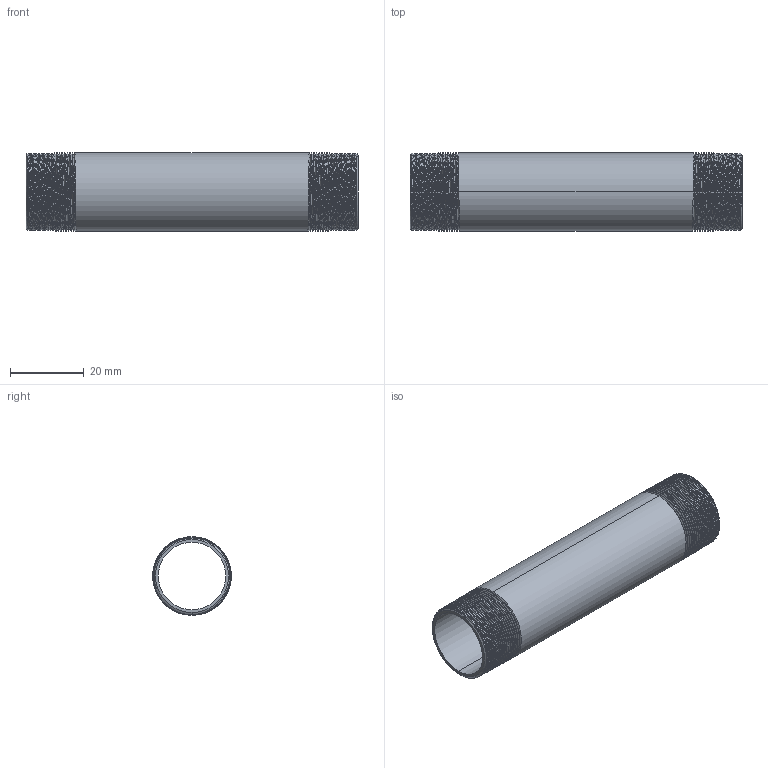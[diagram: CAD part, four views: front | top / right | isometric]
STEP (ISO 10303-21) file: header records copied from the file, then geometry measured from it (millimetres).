
FILE_DESCRIPTION (( 'STEP AP203' ), '1' );
FILE_NAME ('3D_R210_1-2x90_17185755.STEP', '2024-08-16T11:27:39', ( '' ), ( '' ), 'SwSTEP 2.0', 'SolidWorks 2024', '' );
FILE_SCHEMA (( 'CONFIG_CONTROL_DESIGN' ));
Length unit declared in the file: millimetre
Products named in the file (1): 3D_R210_1-2x90_17185755
Bounding box: 90 x 21.28 x 21.3 mm (x, y, z)
Volume: 8015.8 mm3; surface area: 12104.8 mm2
Topology: 1 solids, 1 shells, 94 faces, 268 edges, 176 vertices
Faces by surface type: cone 80, bspline 6, cylinder 4, plane 4
Entity records: 14219 total; most frequent: CARTESIAN_POINT 12053, ORIENTED_EDGE 536, DIRECTION 286, EDGE_CURVE 268, VERTEX_POINT 176, B_SPLINE_CURVE_WITH_KNOTS 164, AXIS2_PLACEMENT_3D 101, EDGE_LOOP 96
